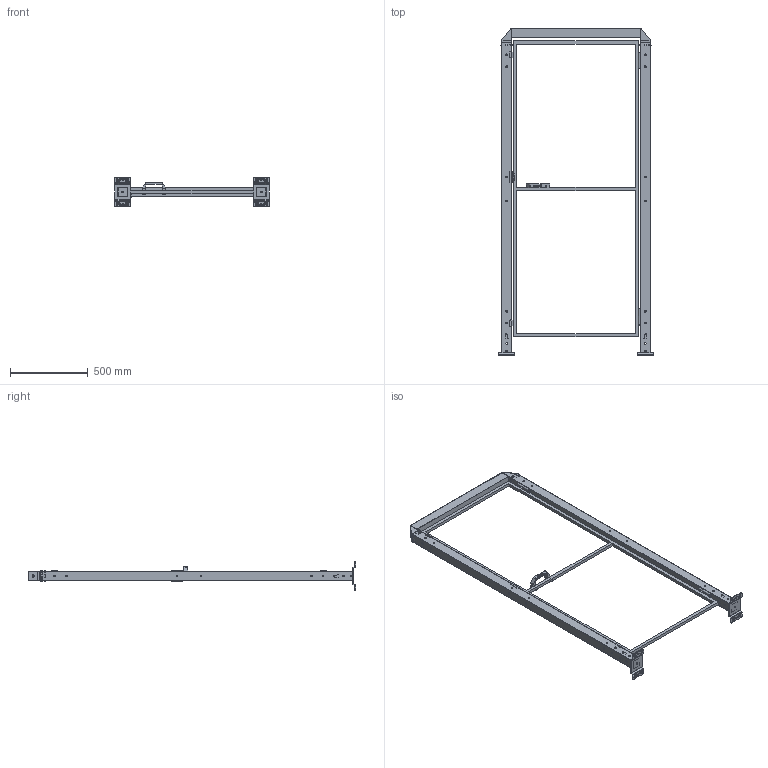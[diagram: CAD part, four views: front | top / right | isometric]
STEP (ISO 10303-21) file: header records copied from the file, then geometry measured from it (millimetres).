
FILE_DESCRIPTION(('STEP AP242'),'1');
FILE_NAME('vfda_bscndr2_08002020.stp','2025-01-23T12:20:59',('TraceParts'),('TraceParts S.A.'),'Spatial InterOp 3D',' ',' ');
FILE_SCHEMA(('AP242_MANAGED_MODEL_BASED_3D_ENGINEERING_MIM_LF {1 0 10303 442 1 1 4}'));
Length unit declared in the file: millimetre
Products named in the file (1): vfda_bscndr2_08002020_1
Bounding box: 990 x 2101 x 192 mm (x, y, z)
Volume: 4568732.7 mm3; surface area: 2998836.2 mm2
Topology: 12 solids, 12 shells, 1874 faces, 5016 edges, 3212 vertices
Faces by surface type: plane 906, cylinder 628, bspline 236, cone 60, torus 40, sphere 4
Entity records: 75648 total; most frequent: CARTESIAN_POINT 13827, ORIENTED_EDGE 10024, DIRECTION 9202, EDGE_CURVE 5012, VERTEX_POINT 3212, LINE 3072, VECTOR 3072, AXIS2_PLACEMENT_3D 3065
